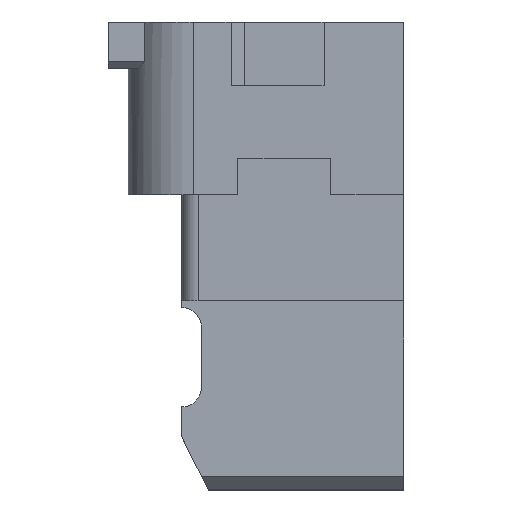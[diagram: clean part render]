
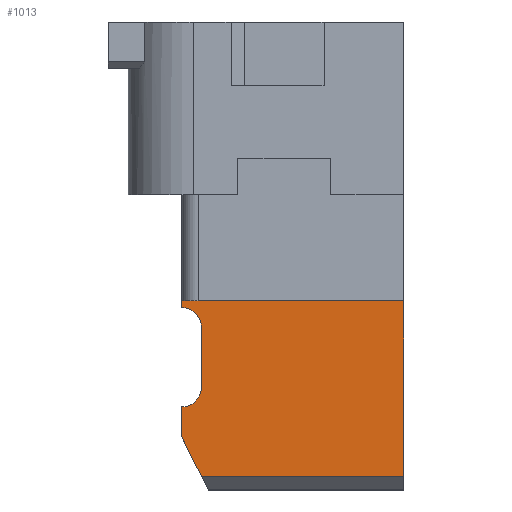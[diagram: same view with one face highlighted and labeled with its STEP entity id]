
A CAD part, top view. The second image highlights one B-rep face of the part: STEP entity #1013.
In plain terms, the highlighted planar face has unit normal (0, 0, 1).
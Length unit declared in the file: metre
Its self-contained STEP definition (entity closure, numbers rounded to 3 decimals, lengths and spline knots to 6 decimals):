
#22=PLANE('',#1395);
#59=CIRCLE('',#1384,0.0003);
#61=CIRCLE('',#1388,0.0003);
#118=ORIENTED_EDGE('',*,*,#374,.F.);
#119=ORIENTED_EDGE('',*,*,#383,.F.);
#120=ORIENTED_EDGE('',*,*,#384,.T.);
#121=ORIENTED_EDGE('',*,*,#385,.T.);
#122=ORIENTED_EDGE('',*,*,#358,.F.);
#123=ORIENTED_EDGE('',*,*,#361,.F.);
#124=ORIENTED_EDGE('',*,*,#364,.F.);
#125=ORIENTED_EDGE('',*,*,#366,.T.);
#126=ORIENTED_EDGE('',*,*,#372,.F.);
#358=EDGE_CURVE('',#498,#495,#59,.T.);
#361=EDGE_CURVE('',#500,#498,#593,.T.);
#364=EDGE_CURVE('',#502,#500,#61,.T.);
#366=EDGE_CURVE('',#502,#503,#596,.T.);
#372=EDGE_CURVE('',#508,#503,#602,.T.);
#374=EDGE_CURVE('',#509,#508,#604,.T.);
#383=EDGE_CURVE('',#515,#509,#613,.T.);
#384=EDGE_CURVE('',#515,#516,#614,.T.);
#385=EDGE_CURVE('',#516,#495,#615,.T.);
#495=VERTEX_POINT('',#1719);
#498=VERTEX_POINT('',#1724);
#500=VERTEX_POINT('',#1730);
#502=VERTEX_POINT('',#1736);
#503=VERTEX_POINT('',#1740);
#508=VERTEX_POINT('',#1752);
#509=VERTEX_POINT('',#1756);
#515=VERTEX_POINT('',#1776);
#516=VERTEX_POINT('',#1778);
#593=LINE('',#1731,#715);
#596=LINE('',#1742,#718);
#602=LINE('',#1753,#724);
#604=LINE('',#1758,#726);
#613=LINE('',#1775,#735);
#614=LINE('',#1777,#736);
#615=LINE('',#1779,#737);
#715=VECTOR('',#1466,1.);
#718=VECTOR('',#1477,1.);
#724=VECTOR('',#1485,1.);
#726=VECTOR('',#1489,1.);
#735=VECTOR('',#1506,1.);
#736=VECTOR('',#1507,1.);
#737=VECTOR('',#1508,1.);
#842=EDGE_LOOP('',(#118,#119,#120,#121,#122,#123,#124,#125,#126));
#898=FACE_BOUND('',#842,.T.);
#1013=ADVANCED_FACE('',(#898),#22,.F.);
#1384=AXIS2_PLACEMENT_3D('',#1725,#1460,#1461);
#1388=AXIS2_PLACEMENT_3D('',#1737,#1472,#1473);
#1395=AXIS2_PLACEMENT_3D('',#1774,#1504,#1505);
#1460=DIRECTION('',(0.,0.,1.));
#1461=DIRECTION('',(-1.,0.,0.));
#1466=DIRECTION('',(0.,1.,0.));
#1472=DIRECTION('',(0.,0.,1.));
#1473=DIRECTION('',(-1.,0.,0.));
#1477=DIRECTION('',(0.,-1.,0.));
#1485=DIRECTION('',(-0.447,0.894,0.));
#1489=DIRECTION('',(-1.,0.,0.));
#1504=DIRECTION('',(0.,0.,-1.));
#1505=DIRECTION('',(-1.,0.,0.));
#1506=DIRECTION('',(0.,-1.,0.));
#1507=DIRECTION('',(-1.,0.,0.));
#1508=DIRECTION('',(0.,-1.,0.));
#1719=CARTESIAN_POINT('',(0.163335,-0.126175,0.003675));
#1724=CARTESIAN_POINT('',(0.163635,-0.126475,0.003675));
#1725=CARTESIAN_POINT('',(0.163335,-0.126475,0.003675));
#1730=CARTESIAN_POINT('',(0.163635,-0.127375,0.003675));
#1731=CARTESIAN_POINT('',(0.163635,-0.127375,0.003675));
#1736=CARTESIAN_POINT('',(0.163335,-0.127675,0.003675));
#1737=CARTESIAN_POINT('',(0.163335,-0.127375,0.003675));
#1740=CARTESIAN_POINT('',(0.163335,-0.128125,0.003675));
#1742=CARTESIAN_POINT('',(0.163335,-0.126075,0.003675));
#1752=CARTESIAN_POINT('',(0.163635,-0.128725,0.003675));
#1753=CARTESIAN_POINT('',(0.16336,-0.128174,0.003675));
#1756=CARTESIAN_POINT('',(0.16668,-0.128725,0.003675));
#1758=CARTESIAN_POINT('',(0.16668,-0.128725,0.003675));
#1774=CARTESIAN_POINT('',(0.16668,-0.126075,0.003675));
#1775=CARTESIAN_POINT('',(0.16668,-0.126075,0.003675));
#1776=CARTESIAN_POINT('',(0.16668,-0.126075,0.003675));
#1777=CARTESIAN_POINT('',(0.16668,-0.126075,0.003675));
#1778=CARTESIAN_POINT('',(0.163335,-0.126075,0.003675));
#1779=CARTESIAN_POINT('',(0.163335,-0.126075,0.003675));
